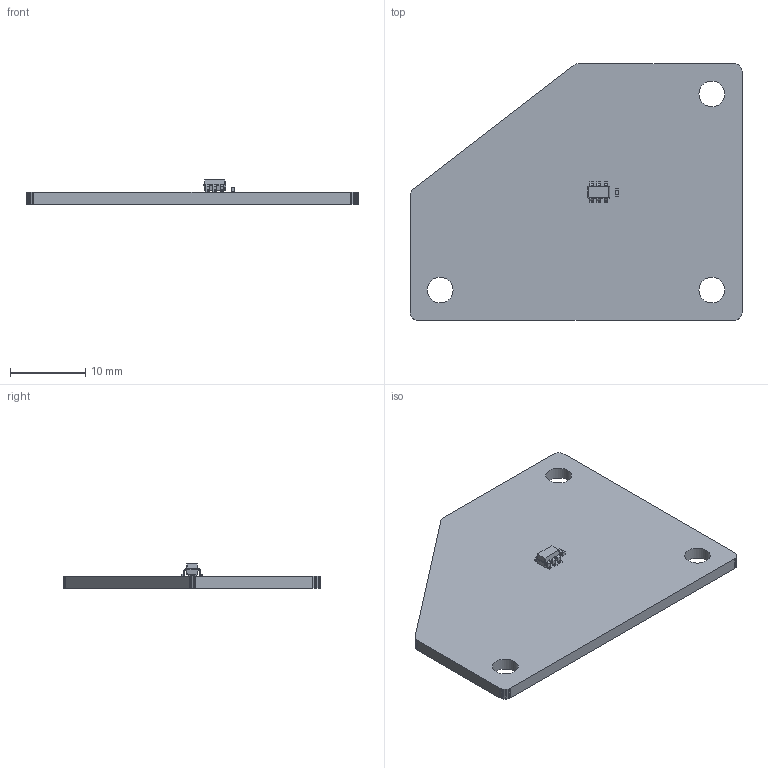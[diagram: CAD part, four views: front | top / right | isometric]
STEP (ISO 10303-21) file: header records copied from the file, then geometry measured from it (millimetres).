
FILE_DESCRIPTION(('KiCad electronic assembly'),'2;1');
FILE_NAME('design.step','2023-11-15T13:43:37',('Pcbnew'),('Kicad'), 'Open CASCADE STEP processor 7.7','KiCad to STEP converter','Unknown' );
FILE_SCHEMA(('AUTOMOTIVE_DESIGN { 1 0 10303 214 1 1 1 1 }'));
Length unit declared in the file: millimetre
Products named in the file (6): design 1; SOT-23-6; SOLID; C_0402_1005Metric; design PCB
Assembly tree (5 placements, depth 3):
  design 1
    SOT-23-6
      SOLID
    C_0402_1005Metric
      SOLID
    design PCB
Bounding box: 44 x 34 x 3.2 mm (x, y, z)
Volume: 2056.5 mm3; surface area: 2874.7 mm2
Topology: 3 solids, 3 shells, 194 faces, 510 edges, 324 vertices
Faces by surface type: plane 125, cylinder 39, bspline 30
Full cylindrical faces by diameter (mm): 3.4 x3
Entity records: 13733 total; most frequent: CARTESIAN_POINT 2486, DIRECTION 1816, LINE 1284, VECTOR 1284, ORIENTED_EDGE 1020, PCURVE 1020, DEFINITIONAL_REPRESENTATION 1020, EDGE_CURVE 510
